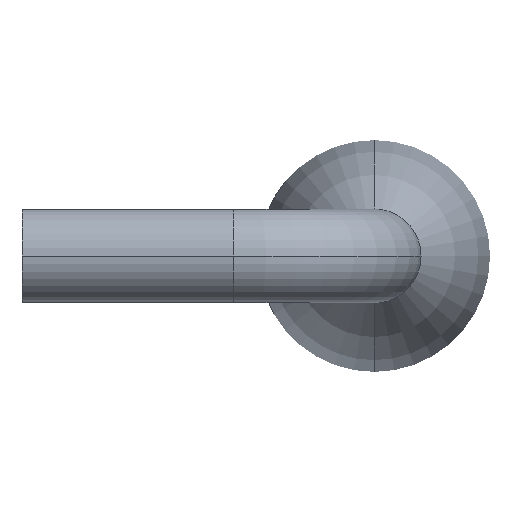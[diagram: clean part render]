
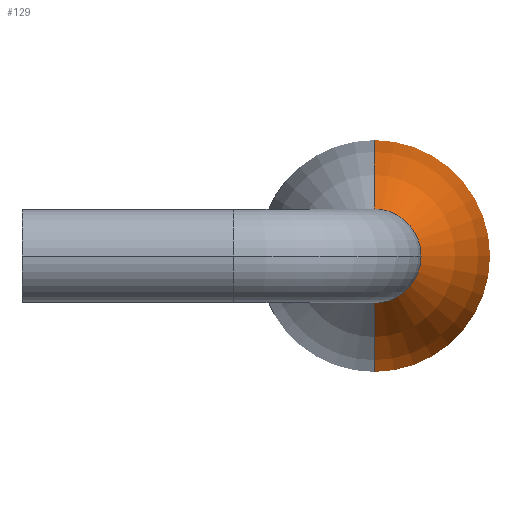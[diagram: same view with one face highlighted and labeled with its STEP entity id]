
A CAD part, left-side view. The second image highlights one B-rep face of the part: STEP entity #129.
In plain terms, the highlighted toroidal (fillet/blend) face has major radius 24.202 mm and minor radius 34.202 mm.
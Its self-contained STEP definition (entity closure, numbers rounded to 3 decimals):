
#123 = VERTEX_POINT( '', #333 );
#129 = ADVANCED_FACE( '', ( #340 ), #341, .T. );
#137 = EDGE_CURVE( '', #123, #261, #349, .T. );
#165 = EDGE_CURVE( '', #261, #251, #378, .T. );
#167 = EDGE_CURVE( '', #277, #251, #380, .T. );
#187 = EDGE_CURVE( '', #123, #249, #407, .T. );
#205 = EDGE_CURVE( '', #225, #249, #426, .T. );
#225 = VERTEX_POINT( '', #448 );
#249 = VERTEX_POINT( '', #474 );
#251 = VERTEX_POINT( '', #476 );
#261 = VERTEX_POINT( '', #486 );
#277 = VERTEX_POINT( '', #506 );
#293 = EDGE_CURVE( '', #277, #225, #522, .T. );
#333 = CARTESIAN_POINT( '', ( 44.65, -30., -4. ) );
#340 = FACE_OUTER_BOUND( '', #566, .T. );
#341 = TOROIDAL_SURFACE( '', #567, -24.202, 34.202 );
#349 = CIRCLE( '', #576, 4. );
#378 = CIRCLE( '', #613, 4. );
#380 = CIRCLE( '', #616, 34.202 );
#407 = CIRCLE( '', #648, 34.202 );
#426 = CIRCLE( '', #674, 4. );
#448 = CARTESIAN_POINT( '', ( 83.35, -34., 0. ) );
#474 = CARTESIAN_POINT( '', ( 83.35, -30., -4. ) );
#476 = CARTESIAN_POINT( '', ( 44.65, -30., 4. ) );
#486 = CARTESIAN_POINT( '', ( 44.65, -34., 0. ) );
#506 = CARTESIAN_POINT( '', ( 83.35, -30., 4. ) );
#522 = CIRCLE( '', #797, 4. );
#566 = EDGE_LOOP( '', ( #841, #842, #843, #844, #845, #846 ) );
#567 = AXIS2_PLACEMENT_3D( '', #847, #848, #849 );
#576 = AXIS2_PLACEMENT_3D( '', #850, #851, #852 );
#613 = AXIS2_PLACEMENT_3D( '', #882, #883, #884 );
#616 = AXIS2_PLACEMENT_3D( '', #885, #886, #887 );
#648 = AXIS2_PLACEMENT_3D( '', #929, #930, #931 );
#674 = AXIS2_PLACEMENT_3D( '', #953, #954, #955 );
#797 = AXIS2_PLACEMENT_3D( '', #1073, #1074, #1075 );
#841 = ORIENTED_EDGE( '', *, *, #187, .T. );
#842 = ORIENTED_EDGE( '', *, *, #205, .F. );
#843 = ORIENTED_EDGE( '', *, *, #293, .F. );
#844 = ORIENTED_EDGE( '', *, *, #167, .T. );
#845 = ORIENTED_EDGE( '', *, *, #165, .F. );
#846 = ORIENTED_EDGE( '', *, *, #137, .F. );
#847 = CARTESIAN_POINT( '', ( 64., -30., 0. ) );
#848 = DIRECTION( '', ( 1., 0., 0. ) );
#849 = DIRECTION( '', ( 0., 0., -1. ) );
#850 = CARTESIAN_POINT( '', ( 44.65, -30., 0. ) );
#851 = DIRECTION( '', ( -1., 0., 0. ) );
#852 = DIRECTION( '', ( 0., -1., 0. ) );
#882 = CARTESIAN_POINT( '', ( 44.65, -30., 0. ) );
#883 = DIRECTION( '', ( -1., 0., 0. ) );
#884 = DIRECTION( '', ( 0., -1., 0. ) );
#885 = CARTESIAN_POINT( '', ( 64., -30., -24.202 ) );
#886 = DIRECTION( '', ( 0., -1., 0. ) );
#887 = DIRECTION( '', ( 0., 0., 1. ) );
#929 = CARTESIAN_POINT( '', ( 64., -30., 24.202 ) );
#930 = DIRECTION( '', ( 0., -1., 0. ) );
#931 = DIRECTION( '', ( 0., 0., -1. ) );
#953 = CARTESIAN_POINT( '', ( 83.35, -30., 0. ) );
#954 = DIRECTION( '', ( 1., 0., 0. ) );
#955 = DIRECTION( '', ( 0., -1., 0. ) );
#1073 = CARTESIAN_POINT( '', ( 83.35, -30., 0. ) );
#1074 = DIRECTION( '', ( 1., 0., 0. ) );
#1075 = DIRECTION( '', ( 0., -1., 0. ) );
